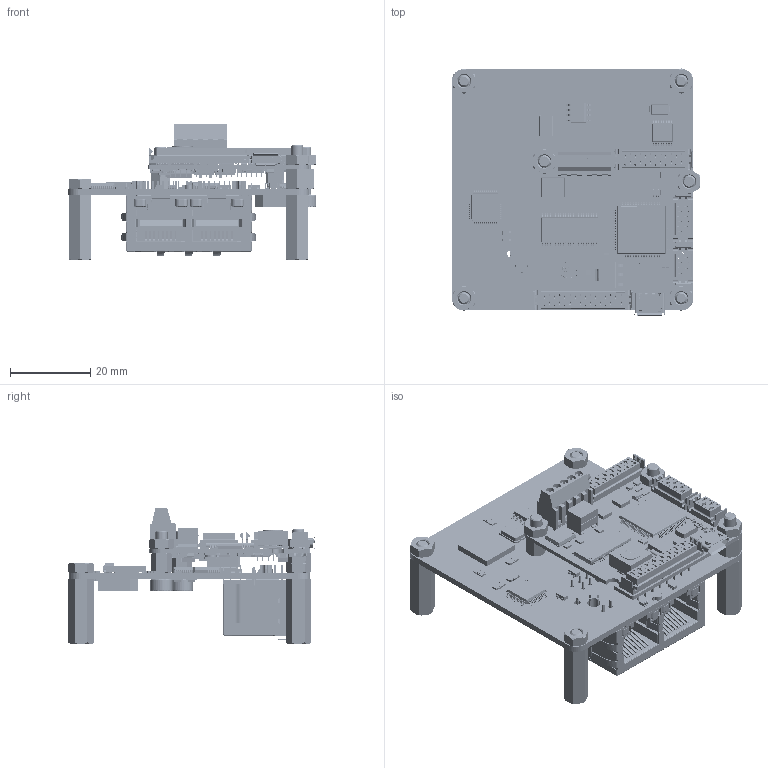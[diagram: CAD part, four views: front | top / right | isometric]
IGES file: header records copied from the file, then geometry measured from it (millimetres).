
Start section: SolidWorks IGES file using analytic representation for surfaces
Global section: file name: C:\Users\abolet\Desktop\NeptuneEtherCATlight.IGS; native system: SolidWorks 2014; preprocessor: SolidWorks 2014; author: abolet; date: 150522.094030; units: millimetre
Bounding box: 61.74 x 61.51 x 33.62 mm (x, y, z)
Surface area: 32885.9 mm2 (no closed solid volume)
Topology: 0 solids, 0 shells, 14913 faces, 98943 edges, 98363 vertices
Faces by surface type: bspline 11661, revolution 3252
